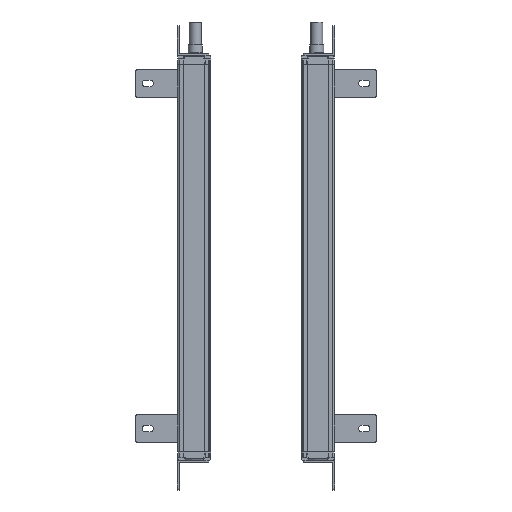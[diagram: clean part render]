
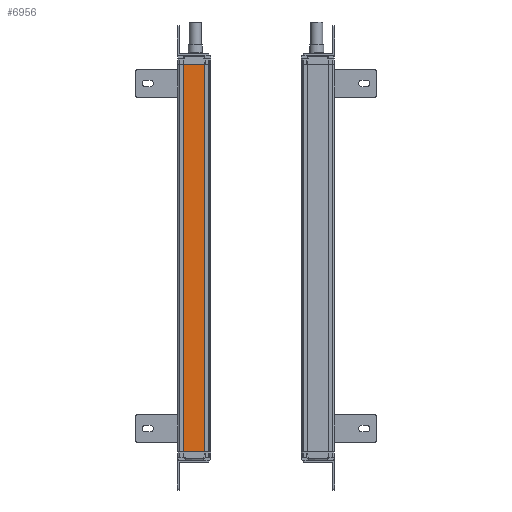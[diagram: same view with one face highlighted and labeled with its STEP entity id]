
A CAD part, left-side view. The second image highlights one B-rep face of the part: STEP entity #6956.
In plain terms, the highlighted planar face has unit normal (-1, 0, 0).
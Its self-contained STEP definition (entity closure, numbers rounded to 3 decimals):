
#953=FACE_OUTER_BOUND('',#9034,.T.);
#2188=LINE('',#33710,#4326);
#2290=LINE('',#34050,#4428);
#2291=LINE('',#34052,#4429);
#2292=LINE('',#34054,#4430);
#4326=VECTOR('',#26897,1.);
#4428=VECTOR('',#27185,1.);
#4429=VECTOR('',#27188,1.);
#4430=VECTOR('',#27189,1.);
#6178=PLANE('',#23723);
#6956=ADVANCED_FACE('',(#953),#6178,.T.);
#9034=EDGE_LOOP('',(#11681,#11682,#11683,#11684));
#11681=ORIENTED_EDGE('',*,*,#19828,.F.);
#11682=ORIENTED_EDGE('',*,*,#19829,.T.);
#11683=ORIENTED_EDGE('',*,*,#19830,.T.);
#11684=ORIENTED_EDGE('',*,*,#19658,.F.);
#17203=VERTEX_POINT('',#33709);
#17204=VERTEX_POINT('',#33711);
#17348=VERTEX_POINT('',#34049);
#17349=VERTEX_POINT('',#34053);
#19658=EDGE_CURVE('',#17203,#17204,#2188,.T.);
#19828=EDGE_CURVE('',#17348,#17203,#2290,.T.);
#19829=EDGE_CURVE('',#17348,#17349,#2291,.T.);
#19830=EDGE_CURVE('',#17349,#17204,#2292,.T.);
#23723=AXIS2_PLACEMENT_3D('',#34055,#27190,#27191);
#26897=DIRECTION('',(0.,-1.,0.));
#27185=DIRECTION('',(0.,0.,1.));
#27188=DIRECTION('',(0.,-1.,0.));
#27189=DIRECTION('',(0.,0.,1.));
#27190=DIRECTION('',(-1.,0.,0.));
#27191=DIRECTION('',(0.,-1.,0.));
#33709=CARTESIAN_POINT('',(233.846,104.141,31.645));
#33710=CARTESIAN_POINT('',(233.846,81.141,31.645));
#33711=CARTESIAN_POINT('',(233.846,81.141,31.645));
#34049=CARTESIAN_POINT('',(233.846,104.141,-383.355));
#34050=CARTESIAN_POINT('',(233.846,104.141,-155.355));
#34052=CARTESIAN_POINT('',(233.846,81.141,-383.355));
#34053=CARTESIAN_POINT('',(233.846,81.141,-383.355));
#34054=CARTESIAN_POINT('',(233.846,81.141,-155.355));
#34055=CARTESIAN_POINT('',(233.846,81.141,-50.355));
